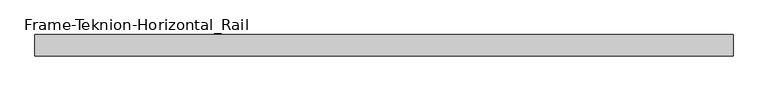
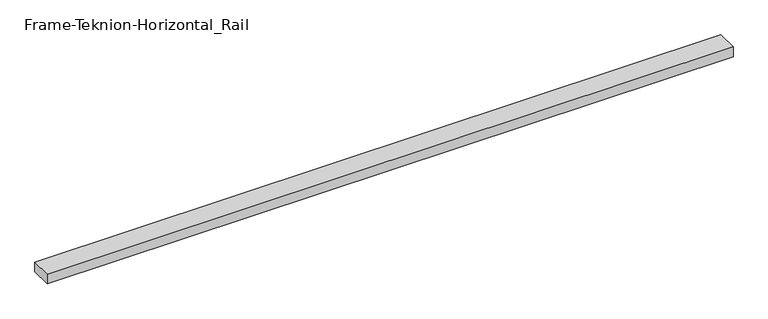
"""IFC4 building model written with IfcOpenShell, lengths in millimetres: proxy geometry, Frame-Teknion-Horizontal_Rail : FPKK."""

import ifcopenshell
import ifcopenshell.guid

model = None  # the IFC model being written
_history = None  # IfcOwnerHistory: only IFC2X3 demands one
_inside = {}  # id of a spatial element -> (the spatial element, [elements in it])
_under = {}  # id of a project, library or spatial element -> (it, [spatial elements below it])
_declared = {}  # id of a project -> (the project, [libraries it declares])
_typed = {}  # id of a type object -> (the type object, [elements of that type])
_made_of = {}  # id of a material, layer set ... -> (it, [elements and type objects made of it])


def new_model(schema):
    """Start an empty IFC model of exactly this schema.

    Asked for "IFC4X3", IfcOpenShell would pick the latest addendum, in which some entities
    have other attributes; the version numbers below select the first issue.
    IFC2X3 requires an IfcOwnerHistory on every rooted entity: one is made here for all.
    """
    global model, _history
    if schema == "IFC4X3":
        model = ifcopenshell.file(schema_version=(4, 3, 0, 0))
    else:
        model = ifcopenshell.file(schema=schema)
    _inside.clear()
    _under.clear()
    _declared.clear()
    _typed.clear()
    _made_of.clear()
    _history = None
    if model.schema == "IFC2X3":
        org = make("IfcOrganization", Name="unknown")
        user = make(
            "IfcPersonAndOrganization",
            ThePerson=make("IfcPerson", FamilyName="unknown"),
            TheOrganization=org,
        )
        app = make(
            "IfcApplication",
            ApplicationDeveloper=org,
            Version="unknown",
            ApplicationFullName="unknown",
            ApplicationIdentifier="unknown",
        )
        _history = make(
            "IfcOwnerHistory",
            OwningUser=user,
            OwningApplication=app,
            ChangeAction="ADDED",
            CreationDate=0,
        )
    return model


def make(cls, **values):
    """One entity of the class cls with the attributes given. An attribute that is None is left unset."""
    return model.create_entity(
        cls, **{name: value for name, value in values.items() if value is not None}
    )


def rooted(cls, **values):
    """An entity with a GlobalId (a new one), such as an element, a storey or a relation."""
    return make(cls, GlobalId=ifcopenshell.guid.new(), OwnerHistory=_history, **values)


def si_unit(unit_type, name, prefix=None):
    """IfcSIUnit, for example si_unit("LENGTHUNIT", "METRE", prefix="MILLI")."""
    return make("IfcSIUnit", UnitType=unit_type, Prefix=prefix, Name=name)


def assignment(units):
    """IfcUnitAssignment: the units of a project."""
    return None if units is None else make("IfcUnitAssignment", Units=units)


def point(xyz):
    """IfcCartesianPoint."""
    return None if xyz is None else make("IfcCartesianPoint", Coordinates=xyz)


def direction(xyz):
    """IfcDirection."""
    return None if xyz is None else make("IfcDirection", DirectionRatios=xyz)


def frame(location, z_axis=None, x_axis=None):
    """IfcAxis2Placement3D, a coordinate frame: its origin and axes. An axis left out is left unset."""
    return make(
        "IfcAxis2Placement3D",
        Location=point(location),
        Axis=direction(z_axis),
        RefDirection=direction(x_axis),
    )


def origin():
    """The frame at (0, 0, 0) with its axes left unset."""
    return frame((0.0, 0.0, 0.0))


def place(relative_to, where):
    """IfcLocalPlacement: puts the frame where relative to a parent placement (None: the world)."""
    return make(
        "IfcLocalPlacement", PlacementRelTo=relative_to, RelativePlacement=where
    )


def context(
    kind, dimensions, precision=None, world=None, true_north=None, identifier=None
):
    """IfcGeometricRepresentationContext, for example the 3D "Model" context."""
    return make(
        "IfcGeometricRepresentationContext",
        ContextIdentifier=identifier,
        ContextType=kind,
        CoordinateSpaceDimension=dimensions,
        Precision=precision,
        WorldCoordinateSystem=world,
        TrueNorth=true_north,
    )


def project(units=None, contexts=None):
    """IfcProject with its units and contexts."""
    return rooted(
        "IfcProject",
        Name="project",
        RepresentationContexts=contexts,
        UnitsInContext=assignment(units),
    )


def spatial(cls, under=None, at=None, **own):
    """A site, building, storey or space (cls), placed at a placement, below another one or the project."""
    s = rooted(cls, ObjectPlacement=at, **own)
    if under is not None:
        _under.setdefault(under.id(), (under, []))[1].append(s)
    return s


def polyline(points):
    """IfcPolyline through the points."""
    return make("IfcPolyline", Points=[point(p) for p in points])


def outline(outer, holes=None, kind="AREA"):
    """IfcArbitraryClosedProfileDef: a profile drawn as a closed curve; with holes, ...WithVoids."""
    if holes is None:
        return make("IfcArbitraryClosedProfileDef", ProfileType=kind, OuterCurve=outer)
    return make(
        "IfcArbitraryProfileDefWithVoids",
        ProfileType=kind,
        OuterCurve=outer,
        InnerCurves=holes,
    )


def extrude(swept, where, along, depth):
    """IfcExtrudedAreaSolid: the profile swept, set in the frame where, extruded along a direction by depth."""
    return make(
        "IfcExtrudedAreaSolid",
        SweptArea=swept,
        Position=where,
        ExtrudedDirection=direction(along),
        Depth=depth,
    )


def shape(context_of_items, identifier, shape_type, items):
    """IfcShapeRepresentation: the items that make up one representation, for example the "Body"."""
    return make(
        "IfcShapeRepresentation",
        ContextOfItems=context_of_items,
        RepresentationIdentifier=identifier,
        RepresentationType=shape_type,
        Items=items,
    )


def source(mapping_origin, context_of_items, identifier, shape_type, items):
    """IfcRepresentationMap: a shape defined once, which mapped items show again and again."""
    return make(
        "IfcRepresentationMap",
        MappingOrigin=mapping_origin,
        MappedRepresentation=shape(context_of_items, identifier, shape_type, items),
    )


def transform(
    local_origin,
    x_axis=None,
    y_axis=None,
    z_axis=None,
    scale=None,
    scale2=None,
    scale3=None,
    uniform=True,
):
    """IfcCartesianTransformationOperator3D, or its non-uniform kind. x_axis, y_axis, z_axis: its Axis1, 2, 3."""
    if uniform:
        return make(
            "IfcCartesianTransformationOperator3D",
            Axis1=direction(x_axis),
            Axis2=direction(y_axis),
            LocalOrigin=point(local_origin),
            Scale=scale,
            Axis3=direction(z_axis),
        )
    return make(
        "IfcCartesianTransformationOperator3DnonUniform",
        Axis1=direction(x_axis),
        Axis2=direction(y_axis),
        LocalOrigin=point(local_origin),
        Scale=scale,
        Axis3=direction(z_axis),
        Scale2=scale2,
        Scale3=scale3,
    )


def mapped(mapping_source, mapping_target):
    """IfcMappedItem: shows the shape of a source again, moved by a transform."""
    return make(
        "IfcMappedItem", MappingSource=mapping_source, MappingTarget=mapping_target
    )


def made_of(thing, what):
    """Note that an element or type object is made of a material, layer set ...; save() writes the relation."""
    if what is not None:
        _made_of.setdefault(what.id(), (what, []))[1].append(thing)
    return thing


def element(
    cls,
    number,
    at=None,
    inside=None,
    cuts=None,
    type_object=None,
    material=None,
    context=None,
    identifier="Body",
    shape_type=None,
    held_by="IfcProductDefinitionShape",
    body=None,
    shapes=None,
    **own,
):
    """One element of the class cls, such as IfcWall. Its Tag is "e" and its number.

    at: its placement. inside: the storey or other place that contains it. cuts: it is an
    opening in that element (IfcRelVoidsElement). A single representation is given by context,
    identifier, shape_type and body (its items); several are given by shapes. held_by: the class
    of the entity that holds the representations. save() writes the other relations.
    """
    e = rooted(cls, Tag="e%d" % number, ObjectPlacement=at, **own)
    if body is not None:
        shapes = [shape(context, identifier, shape_type, body)]
    if shapes is not None:
        e.Representation = make(held_by, Representations=shapes)
    if inside is not None:
        _inside.setdefault(inside.id(), (inside, []))[1].append(e)
    if cuts is not None:
        rooted(
            "IfcRelVoidsElement", RelatingBuildingElement=cuts, RelatedOpeningElement=e
        )
    if type_object is not None:
        _typed.setdefault(type_object.id(), (type_object, []))[1].append(e)
    return made_of(e, material)


def aggregate(whole, parts):
    """IfcRelAggregates: a whole, such as a stair, and the parts it consists of."""
    return rooted("IfcRelAggregates", RelatingObject=whole, RelatedObjects=parts)


def save(model, path):
    """Write the relations noted so far, then the file.

    IfcRelAggregates (storeys below a building ...), IfcRelContainedInSpatialStructure (elements
    in a storey), IfcRelDefinesByType, IfcRelAssociatesMaterial and IfcRelDeclares: one each for
    every whole, place, type object, material and project.
    """
    for whole, parts in _under.values():
        aggregate(whole, parts)
    for where, things in _inside.values():
        rooted(
            "IfcRelContainedInSpatialStructure",
            RelatedElements=things,
            RelatingStructure=where,
        )
    for kind, things in _typed.values():
        rooted("IfcRelDefinesByType", RelatedObjects=things, RelatingType=kind)
    for what, things in _made_of.values():
        rooted("IfcRelAssociatesMaterial", RelatedObjects=things, RelatingMaterial=what)
    for by, libraries in _declared.values():
        rooted("IfcRelDeclares", RelatingContext=by, RelatedDefinitions=libraries)
    model.write(path)


def frame_teknion_horizontal_rail_d62daecc(model_context):
    return source(origin(), model_context, "Body", "SweptSolid", [
        extrude(outline(polyline([(-951.2101562, 29.2199219), (951.2101563, 29.2199219), (951.2101563, -29.2199219), (-951.2101562, -29.2199219), (-951.2101562, 29.2199219)])), frame((0.0, 0.0, -13.9898438), z_axis=(0.0, 0.0, 1.0), x_axis=(1.0, 0.0, 0.0)), (0.0, 0.0, 1.0), 27.9796875),
    ])


if __name__ == "__main__":
    model = new_model("IFC4")
    model_context = context("Model", 3, world=origin())
    ifc_project = project(units=[si_unit("LENGTHUNIT", "METRE", prefix="MILLI")], contexts=[model_context])
    site = spatial("IfcSite", under=ifc_project)
    building = spatial("IfcBuilding", under=site)
    placement = place(None, origin())
    frame_teknion_horizontal_rail_shape = frame_teknion_horizontal_rail_d62daecc(model_context)
    element("IfcBuildingElementProxy", 1, Name="Frame-Teknion-Horizontal_Rail : FPKK", ObjectType="Frame-Teknion-Horizontal_Rail : FPKK", at=placement, inside=building, context=model_context, shape_type="MappedRepresentation", body=[
        mapped(frame_teknion_horizontal_rail_shape, transform((0.0, 0.0, 0.0), x_axis=(1.0, 0.0, 0.0), y_axis=(0.0, 1.0, 0.0), z_axis=(0.0, 0.0, 1.0))),
    ])
    save(model, "model.ifc")
